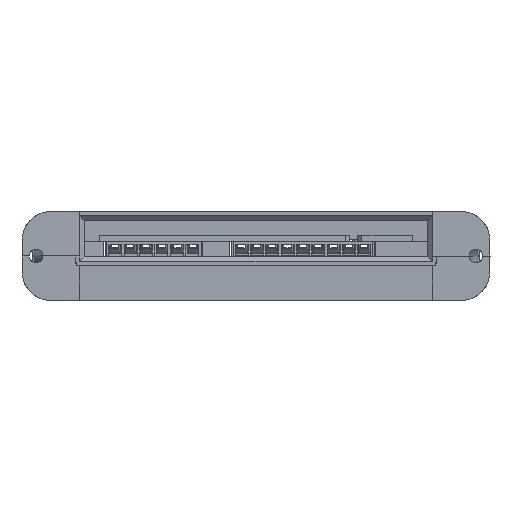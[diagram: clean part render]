
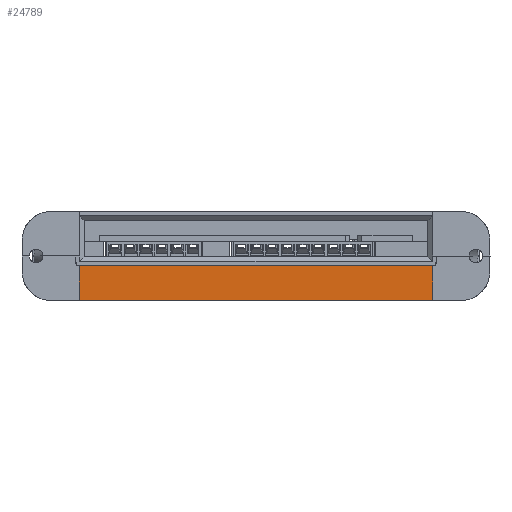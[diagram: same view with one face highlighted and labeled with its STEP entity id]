
A CAD part, left-side view. The second image highlights one B-rep face of the part: STEP entity #24789.
In plain terms, the highlighted planar face has unit normal (-1, 0, -0.018).
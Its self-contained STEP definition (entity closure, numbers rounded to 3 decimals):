
#725 = EDGE_LOOP ( 'NONE', ( #45056, #5351, #37179, #19990 ) ) ;
#2305 = EDGE_CURVE ( 'NONE', #14077, #41003, #40639, .T. ) ;
#4221 = CARTESIAN_POINT ( 'NONE',  ( -9.206, -80., 11. ) ) ;
#5351 = ORIENTED_EDGE ( 'NONE', *, *, #20535, .T. ) ;
#8525 = EDGE_CURVE ( 'NONE', #54958, #41399, #30115, .T. ) ;
#8655 = DIRECTION ( 'NONE',  ( 0.017, 0., -1. ) ) ;
#13240 = CARTESIAN_POINT ( 'NONE',  ( -9.164, -80., 8.6 ) ) ;
#13900 = CARTESIAN_POINT ( 'NONE',  ( -9.164, -68.8, 8.6 ) ) ;
#14077 = VERTEX_POINT ( 'NONE', #26724 ) ;
#14627 = DIRECTION ( 'NONE',  ( -0.017, 0., 1. ) ) ;
#19040 = CARTESIAN_POINT ( 'NONE',  ( -9.206, -68.8, 11. ) ) ;
#19250 = LINE ( 'NONE', #47786, #42600 ) ;
#19990 = ORIENTED_EDGE ( 'NONE', *, *, #51122, .F. ) ;
#20267 = CARTESIAN_POINT ( 'NONE',  ( -9.014, -68.8, 0. ) ) ;
#20535 = EDGE_CURVE ( 'NONE', #41003, #54958, #51405, .T. ) ;
#21435 = DIRECTION ( 'NONE',  ( -0.017, 0., 1. ) ) ;
#22070 = DIRECTION ( 'NONE',  ( 0., 1., 0. ) ) ;
#22252 = FACE_OUTER_BOUND ( 'NONE', #725, .T. ) ;
#24789 = ADVANCED_FACE ( 'NONE', ( #22252 ), #52278, .T. ) ;
#26724 = CARTESIAN_POINT ( 'NONE',  ( -9.014, 18.8, 0. ) ) ;
#28004 = VECTOR ( 'NONE', #14627, 1000. ) ;
#30115 = LINE ( 'NONE', #13240, #52121 ) ;
#33374 = CARTESIAN_POINT ( 'NONE',  ( -9.014, 30., 0. ) ) ;
#34184 = AXIS2_PLACEMENT_3D ( 'NONE', #4221, #34959, #8655 ) ;
#34959 = DIRECTION ( 'NONE',  ( -1., 0., -0.017 ) ) ;
#37179 = ORIENTED_EDGE ( 'NONE', *, *, #8525, .T. ) ;
#40639 = LINE ( 'NONE', #33374, #46843 ) ;
#41003 = VERTEX_POINT ( 'NONE', #20267 ) ;
#41399 = VERTEX_POINT ( 'NONE', #49998 ) ;
#42600 = VECTOR ( 'NONE', #21435, 1000. ) ;
#45056 = ORIENTED_EDGE ( 'NONE', *, *, #2305, .T. ) ;
#46843 = VECTOR ( 'NONE', #51042, 1000. ) ;
#47786 = CARTESIAN_POINT ( 'NONE',  ( -9.206, 18.8, 11. ) ) ;
#49998 = CARTESIAN_POINT ( 'NONE',  ( -9.164, 18.8, 8.6 ) ) ;
#51042 = DIRECTION ( 'NONE',  ( 0., -1., 0. ) ) ;
#51122 = EDGE_CURVE ( 'NONE', #14077, #41399, #19250, .T. ) ;
#51405 = LINE ( 'NONE', #19040, #28004 ) ;
#52121 = VECTOR ( 'NONE', #22070, 1000. ) ;
#52278 = PLANE ( 'NONE',  #34184 ) ;
#54958 = VERTEX_POINT ( 'NONE', #13900 ) ;
